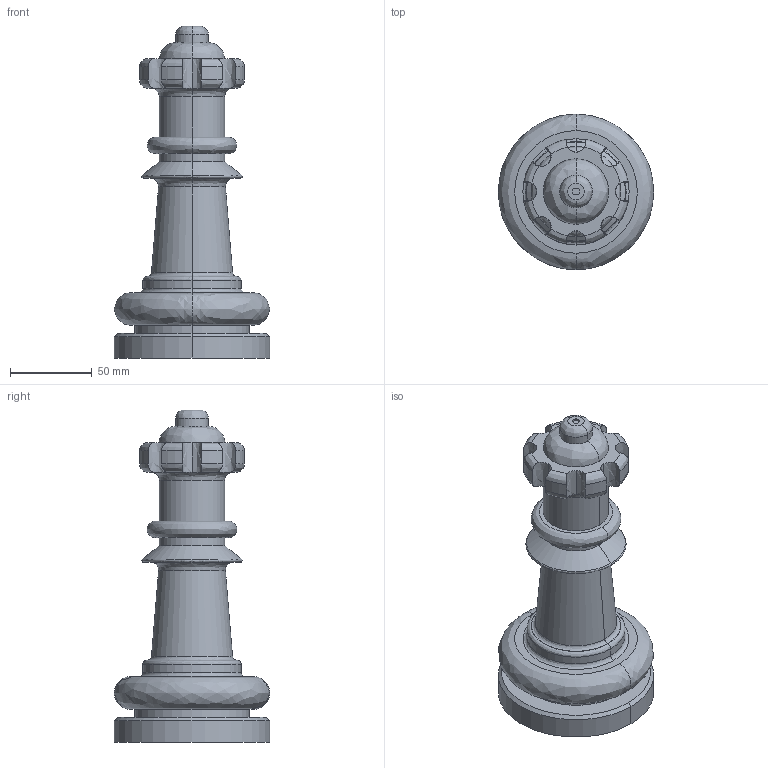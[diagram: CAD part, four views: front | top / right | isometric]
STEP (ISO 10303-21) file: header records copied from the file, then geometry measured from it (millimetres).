
FILE_DESCRIPTION((' '),'2;1');
FILE_NAME( 'TS_02a_Chess Queen.STEP', '2021-08-19T13:20:13', (' '), ('--- Datakit www.datakit.com---'), ' Datakit CrossCadWare V2021.1 Dec 21 2020', 'GO2cam V6.08', ' ');
FILE_SCHEMA(('AUTOMOTIVE_DESIGN { 1 0 10303 214 1 1 1 1 }'));
Length unit declared in the file: millimetre
Products named in the file (1): part
Bounding box: 95 x 95 x 203 mm (x, y, z)
Volume: 489941.3 mm3; surface area: 61785.7 mm2
Topology: 1 solids, 1 shells, 108 faces, 314 edges, 254 vertices
Faces by surface type: bspline 84, plane 24
Entity records: 5470 total; most frequent: CARTESIAN_POINT 2845, ORIENTED_EDGE 532, DIRECTION 493, EDGE_CURVE 266, AXIS2_PLACEMENT_3D 202, CIRCLE 177, VERTEX_POINT 170, EDGE_LOOP 118
